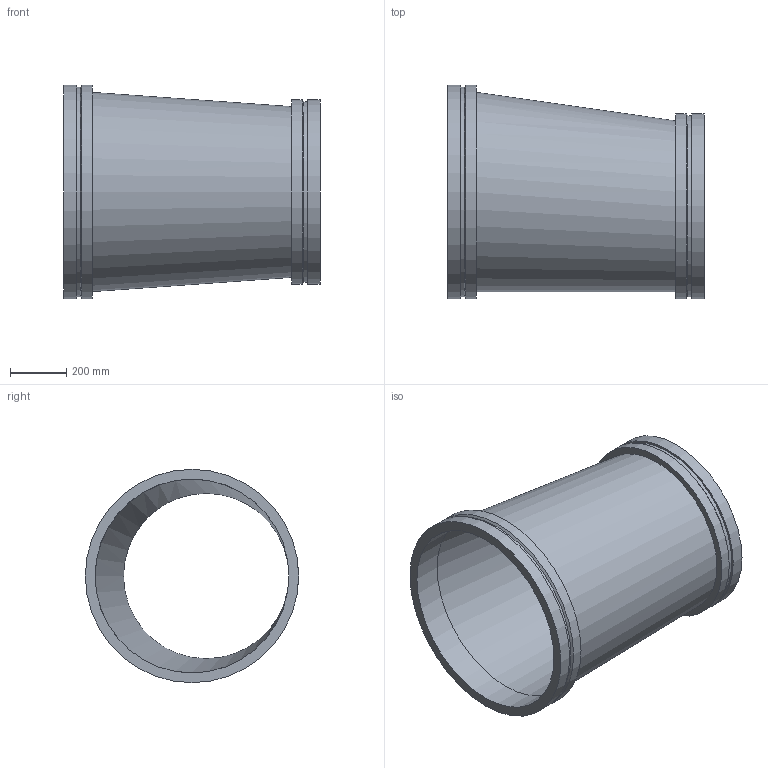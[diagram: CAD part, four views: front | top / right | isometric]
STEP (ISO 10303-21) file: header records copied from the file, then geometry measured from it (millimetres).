
FILE_DESCRIPTION(/* description */ ('VIC REDUCER ECCENTRIC No W51-VR','CAx-IF Rec.Pracs.---Representation and Presentation of Product Manufacturing Information (PMI)---4.0---2014-10-13'),/* implementation_level */ '2;1');
FILE_NAME(/* name */ 'C:\Users\kkamble\AppData\Roaming\Autodesk\ApplicationPlugins\Back Up\Victaulic_Vic-Ring_Reducer Eccentric_No W51 VR (AGR)\Victaulic_Vic-Ring_Reducer Eccentric_No W51 VR (AGR)_28.0x24.0 (700x600).stp',/* time_stamp */ '2020-09-10T11:49:51+05:00',/* author */ ('CONSTRUCTION PIPING SERVICES'),/* organization */ ('Victaulic'),/* preprocessor_version */ 'ST-DEVELOPER v17.2',/* originating_system */ 'Autodesk Inventor 2019',/* authorisation */ '');
FILE_SCHEMA (('AP242_MANAGED_MODEL_BASED_3D_ENGINEERING_MIM_LF { 1 0 10303 442 1 1 4 }'));
Length unit declared in the file: inch
Products named in the file (1): W51 VR-28.0x24.0
Bounding box: 914.4 x 762 x 762 mm (x, y, z)
Volume: 28422892.4 mm3; surface area: 4086364.6 mm2
Topology: 1 solids, 1 shells, 18 faces, 49 edges, 37 vertices
Faces by surface type: cylinder 8, plane 6, cone 2, bspline 2
Full cylindrical faces by diameter (mm): 590.55 x1, 645.922 x1, 660.4 x2, 692.15 x1, 747.522 x1, 762 x2
Entity records: 792 total; most frequent: CARTESIAN_POINT 158, DIRECTION 144, ORIENTED_EDGE 98, AXIS2_PLACEMENT_3D 67, EDGE_CURVE 49, CIRCLE 37, VERTEX_POINT 37, EDGE_LOOP 24
